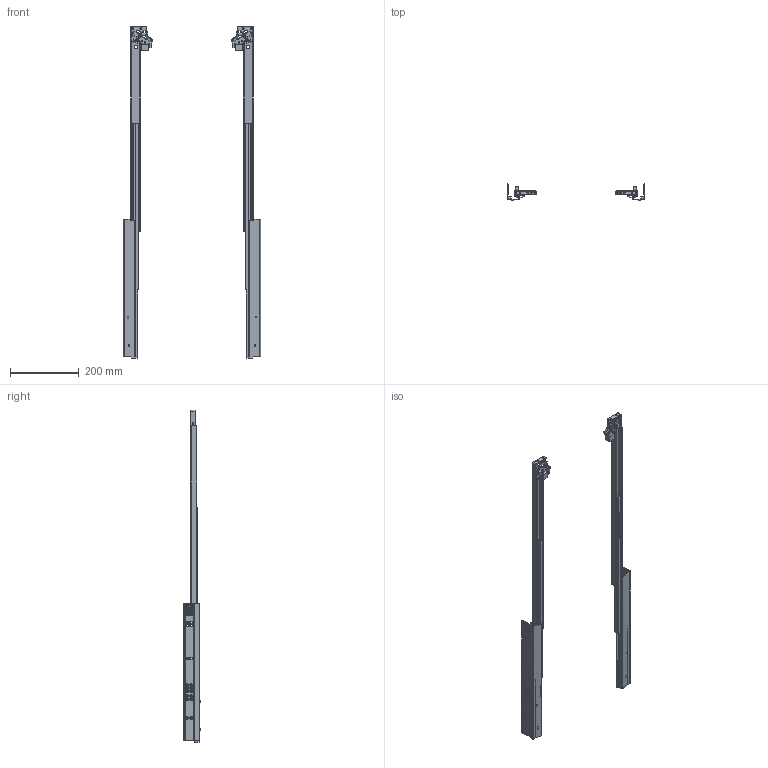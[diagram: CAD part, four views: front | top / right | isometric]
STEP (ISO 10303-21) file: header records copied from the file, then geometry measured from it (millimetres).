
FILE_DESCRIPTION(/* description */ (''),/* implementation_level */ '2;1');
FILE_NAME(/* name */ 'D:\$Workingspace\Designs\Katalog\Cadsoft\GTV Prowadnice\Prowadnice GTV_bryły 3D\PB-0FPO-600_wysunieta.stp',/* time_stamp */ '2016-11-21T14:04:39+01:00',/* author */ ('tomaszw'),/* organization */ (''),/* preprocessor_version */ 'ST-DEVELOPER v16.1',/* originating_system */ 'Autodesk Inventor 2016',/* authorisation */ '');
FILE_SCHEMA (('AUTOMOTIVE_DESIGN { 1 0 10303 214 3 1 1 }'));
Length unit declared in the file: millimetre
Products named in the file (9): PB-0FPO-CL-600; PB-0FPO-CR-600; PB-0FPO-DL-600; PB-0FPO-DR-600; PB-0FPO-DWL-600; PB-0FPO-DWR-600; PB-0FPO-SL; PB-0FPO-SR; PB-0FPO
Assembly tree (8 placements, depth 2):
  PB-0FPO
    PB-0FPO-CL-600
    PB-0FPO-CR-600
    PB-0FPO-DL-600
    PB-0FPO-DR-600
    PB-0FPO-DWL-600
    PB-0FPO-DWR-600
    PB-0FPO-SL
    PB-0FPO-SR
Bounding box: 400 x 48.8 x 969 mm (x, y, z)
Volume: 360622.4 mm3; surface area: 451445.2 mm2
Topology: 16 solids, 16 shells, 1892 faces, 4380 edges, 2526 vertices
Faces by surface type: cylinder 796, plane 444, torus 366, sphere 198, cone 52, bspline 36
Full cylindrical faces by diameter (mm): 3 x2, 4 x6, 4.5 x6, 5 x2, 6 x52, 7.889 x2
Entity records: 56601 total; most frequent: CARTESIAN_POINT 11187, DIRECTION 10022, ORIENTED_EDGE 8332, EDGE_CURVE 4166, AXIS2_PLACEMENT_3D 4051, VERTEX_POINT 2468, EDGE_LOOP 2206, CIRCLE 2166
